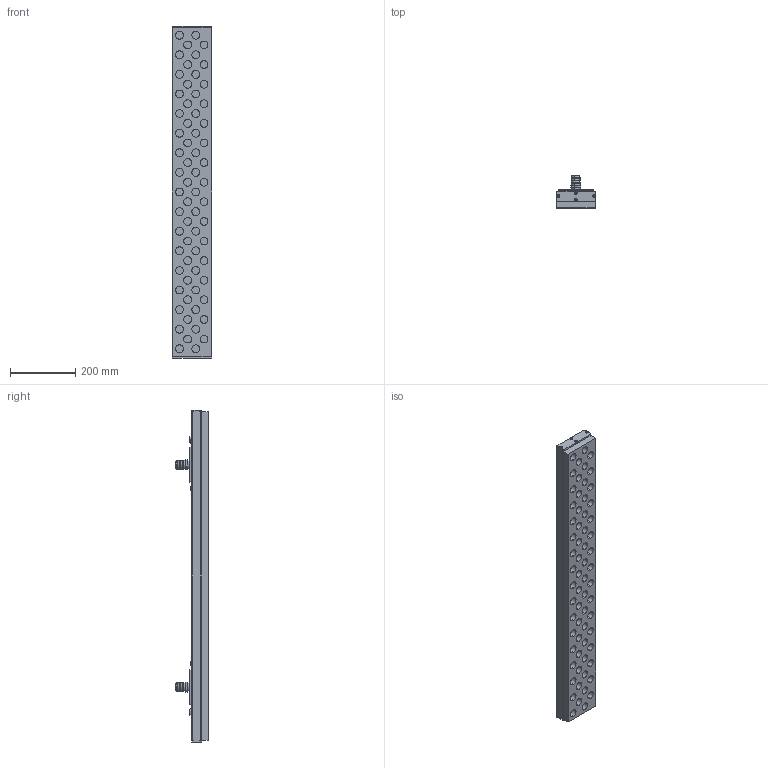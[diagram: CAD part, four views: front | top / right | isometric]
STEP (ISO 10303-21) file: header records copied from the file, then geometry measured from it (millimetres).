
FILE_DESCRIPTION (( 'STEP AP214' ), '1' );
FILE_NAME ('311 000 018.STEP', '2018-01-10T09:45:31', ( '' ), ( '' ), 'SwSTEP 2.0', 'SolidWorks 2017', '' );
FILE_SCHEMA (( 'AUTOMOTIVE_DESIGN' ));
Length unit declared in the file: millimetre
Products named in the file (1): 311 000 018
Bounding box: 121.5 x 98.5 x 1016 mm (x, y, z)
Volume: 5604429.8 mm3; surface area: 517778.3 mm2
Topology: 2 solids, 2 shells, 1001 faces, 2306 edges, 1436 vertices
Faces by surface type: cylinder 440, plane 301, torus 172, cone 68, bspline 12, sphere 8
Entity records: 40482 total; most frequent: CARTESIAN_POINT 5892, DIRECTION 5474, ORIENTED_EDGE 4572, EDGE_CURVE 2286, AXIS2_PLACEMENT_3D 2286, VERTEX_POINT 1424, CIRCLE 1296, EDGE_LOOP 1154
